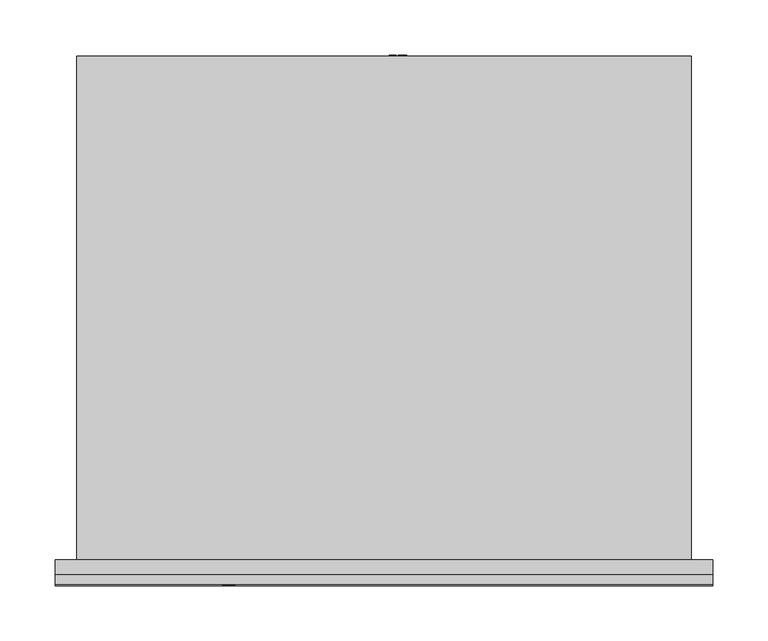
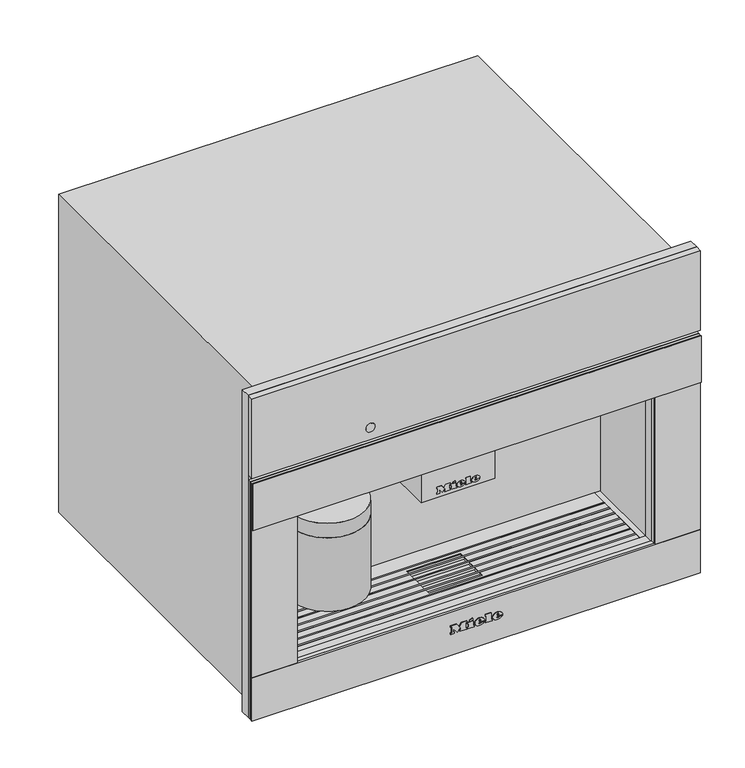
"""IFC4 building model written with IfcOpenShell, lengths in millimetres: proxy geometry, 11164550_F_CVA7840_EDST-CLST : 29784040_F_11164550_CVA7840_EDST-CLST."""

from ifc_helpers import new_model, si_unit, point, frame, frame_2d, origin, place, context, project, spatial, polyline, circle_curve, ellipse_curve, trimmed, segment, composite_curve, outline, extrude, faceted_brep, source, transform, mapped, element, save
from ifc_brep_helpers import plane_surface, cylinder_surface, revolved_surface, extruded_surface, advanced_brep


def specialty_equipment_fd1400ea(model_context):
    return source(origin(), model_context, "Body", "SolidModel", [
        extrude(outline(composite_curve([segment(trimmed(circle_curve(frame_2d((-14.0, 36.5)), 5.0), [point((-9.0, 36.5))], [point((-19.0, 36.5))], False, "CARTESIAN"), True, "CONTINUOUS"), segment(trimmed(circle_curve(frame_2d((-14.0, 36.5)), 5.0), [point((-19.0, 36.5))], [point((-9.0, 36.5))], False, "CARTESIAN"), True, "CONTINUOUS")], self_intersect=False)), frame((0.0, 0.0, 193.0), z_axis=(0.0, 0.0, 1.0), x_axis=(1.0, 0.0, 0.0)), (0.0, 0.0, 1.0), 5.0),
        extrude(outline(composite_curve([segment(trimmed(circle_curve(frame_2d((14.0, 36.5)), 5.0), [point((19.0, 36.5))], [point((9.0, 36.5))], False, "CARTESIAN"), True, "CONTINUOUS"), segment(trimmed(circle_curve(frame_2d((14.0, 36.5)), 5.0), [point((9.0, 36.5))], [point((19.0, 36.5))], False, "CARTESIAN"), True, "CONTINUOUS")], self_intersect=False)), frame((0.0, 0.0, 193.0), z_axis=(0.0, 0.0, 1.0), x_axis=(1.0, 0.0, 0.0)), (0.0, 0.0, 1.0), 5.0),
        extrude(outline(composite_curve([segment(trimmed(circle_curve(frame_2d((-156.5, 49.5)), 50.0), [point((-106.5, 49.5))], [point((-206.5, 49.5))], False, "CARTESIAN"), True, "CONTINUOUS"), segment(trimmed(circle_curve(frame_2d((-156.5, 49.5)), 50.0), [point((-206.5, 49.5))], [point((-106.5, 49.5))], False, "CARTESIAN"), True, "CONTINUOUS")], self_intersect=False)), frame((0.0, 0.0, 100.0), z_axis=(0.0, 0.0, 1.0), x_axis=(1.0, 0.0, 0.0)), (0.0, 0.0, 1.0), 103.0),
        extrude(outline(polyline([(-49.0, 95.0), (49.0, 95.0), (49.0, 20.0), (-49.0, 20.0), (-49.0, 95.0)])), frame((0.0, 0.0, 198.0), z_axis=(0.0, 0.0, 1.0), x_axis=(1.0, 0.0, 0.0)), (0.0, 0.0, 1.0), 75.0),
        extrude(outline(polyline([(455.5, 297.5), (455.5, -297.5), (4.0, -297.5), (4.0, 297.5), (455.5, 297.5)]), holes=[polyline([(273.0, 237.5), (63.0, 237.5), (63.0, -237.5), (273.0, -237.5), (273.0, 237.5)])]), frame((0.0, -13.0, 0.0), z_axis=(0.0, 1.0, 0.0), x_axis=(0.0, 0.0, 1.0)), (0.0, 0.0, 1.0), 13.0),
        extrude(outline(polyline([(97.0, 20.4012141), (107.045631, 20.4012141), (107.045631, 13.1809168), (105.7899271, 13.1809168), (105.7899271, 19.1455102), (102.8076304, 19.1455102), (102.8076304, 13.4948427), (101.5519266, 13.4948427), (101.5519266, 19.1455102), (98.2557039, 19.1455102), (98.2557039, 13.0239538), (97.0, 13.0239538), (97.0, 20.4012141)])), frame((0.0, 456.0, 0.0), z_axis=(0.0, 1.0, 0.0), x_axis=(0.0, 0.0, 1.0)), (0.0, 0.0, 1.0), 1.0),
        extrude(outline(polyline([(97.0, 11.140398), (107.045631, 11.140398), (107.045631, 9.8846941), (98.2557039, 9.8846941), (98.2557039, 4.8618786), (97.0, 4.8618786), (97.0, 11.140398)])), frame((0.0, 456.0, 0.0), z_axis=(0.0, 1.0, 0.0), x_axis=(0.0, 0.0, 1.0)), (0.0, 0.0, 1.0), 1.0),
        advanced_brep(
        [(55.0, 425.5, 102.0), (55.0, 410.5, 102.0), (20.5239538, 425.5, 102.0), (5.5239538, 410.5, 102.0), (20.5239538, 456.0, 102.0), (5.5239538, 456.0, 102.0)],
        [
            (0, 1, circle_curve(frame((55.0, 418.0, 102.0), z_axis=(1.0, 0.0, 0.0), x_axis=(0.0, -1.0, 0.0)), 7.5)),
            (1, 0, circle_curve(frame((55.0, 418.0, 102.0), z_axis=(1.0, 0.0, 0.0), x_axis=(0.0, -1.0, 0.0)), 7.5)),
            (0, 2),
            (2, 3, ellipse_curve(frame((13.0239538, 418.0, 102.0), z_axis=(0.7071067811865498, -0.7071067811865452, 0.0), x_axis=(0.7071067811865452, 0.7071067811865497, 0.0)), 10.6066017, 7.5)),
            (3, 1),
            (3, 2, ellipse_curve(frame((13.0239538, 418.0, 102.0), z_axis=(0.7071067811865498, -0.7071067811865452, 0.0), x_axis=(0.7071067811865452, 0.7071067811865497, 0.0)), 10.6066017, 7.5)),
            (4, 5, circle_curve(frame((13.0239538, 456.0, 102.0), z_axis=(0.0, 1.0, 0.0), x_axis=(-1.0, 0.0, 0.0)), 7.5)),
            (5, 4, circle_curve(frame((13.0239538, 456.0, 102.0), z_axis=(0.0, 1.0, 0.0), x_axis=(-1.0, 0.0, 0.0)), 7.5)),
            (2, 4),
            (5, 3),
        ],
        [
            plane_surface(frame((55.0, 418.0, 102.0), z_axis=(1.0, 0.0, 0.0), x_axis=(0.0, 0.0, 1.0))),
            cylinder_surface(frame((55.0, 418.0, 102.0), z_axis=(1.0, 0.0, 0.0), x_axis=(0.0, -1.0, 0.0)), 7.5),
            plane_surface(frame((13.0239538, 456.0, 102.0), z_axis=(0.0, 1.0, 0.0), x_axis=(0.0, 0.0, 1.0))),
            cylinder_surface(frame((13.0239538, 418.0, 102.0), z_axis=(0.0, -1.0, 0.0), x_axis=(-1.0, 0.0, 0.0)), 7.5),
        ],
        [
            (0, [[1, 2]]),
            (1, [[-1, 3, 4, 5]]),
            (1, [[-2, -5, 6, -3]]),
            (2, [[7, 8]]),
            (3, [[-4, 9, -8, 10]]),
            (3, [[-6, -10, -7, -9]]),
        ],
    ),
        advanced_brep(
        [(-110.0, 49.5, 252.0), (-203.0, 49.5, 252.0), (-206.5, 49.5, 223.5), (-106.5, 49.5, 223.5), (-110.0, 49.5, 273.0), (-203.0, 49.5, 273.0), (-156.5, 49.5, 273.0), (-106.5, 49.5, 203.0), (-206.5, 49.5, 203.0), (-156.5, 49.5, 203.0)],
        [
            (0, 1, circle_curve(frame((-156.5, 49.5, 252.0), z_axis=(0.0, 0.0, -1.0), x_axis=(-1.0, 0.0, 0.0)), 46.5)),
            (1, 2, circle_curve(frame((-206.7961166, 49.5, 238.0012775), z_axis=(0.0, 1.0, 0.0), x_axis=(-1.0, 0.0, 0.0)), 14.5043005)),
            (2, 3, circle_curve(frame((-156.5, 49.5, 223.5), z_axis=(0.0, 0.0, 1.0), x_axis=(-1.0, 0.0, 0.0)), 50.0)),
            (3, 0, circle_curve(frame((-106.2038834, 49.5, 238.0012775), z_axis=(0.0, 1.0, 0.0), x_axis=(1.0, 0.0, 0.0)), 14.5043005)),
            (4, 5, circle_curve(frame((-156.5, 49.5, 273.0), z_axis=(0.0, 0.0, -1.0), x_axis=(-1.0, 0.0, 0.0)), 46.5)),
            (5, 1),
            (0, 4),
            (6, 4),
            (4, 5, circle_curve(frame((-156.5, 49.5, 273.0), z_axis=(0.0, 0.0, 1.0), x_axis=(-1.0, 0.0, 0.0)), 46.5)),
            (5, 6),
            (7, 8, circle_curve(frame((-156.5, 49.5, 203.0), z_axis=(0.0, 0.0, -1.0), x_axis=(-1.0, 0.0, 0.0)), 50.0)),
            (8, 9),
            (9, 7),
            (8, 7, circle_curve(frame((-156.5, 49.5, 203.0), z_axis=(0.0, 0.0, -1.0), x_axis=(-1.0, 0.0, 0.0)), 50.0)),
            (2, 8),
            (7, 3),
            (2, 3, circle_curve(frame((-156.5, 49.5, 223.5), z_axis=(0.0, 0.0, -1.0), x_axis=(-1.0, 0.0, 0.0)), 50.0)),
            (1, 0, circle_curve(frame((-156.5, 49.5, 252.0), z_axis=(0.0, 0.0, -1.0), x_axis=(-1.0, 0.0, 0.0)), 46.5)),
        ],
        [
            revolved_surface(trimmed(ellipse_curve(frame((-206.7961166, 49.5, 238.0012775), z_axis=(0.0, -1.0, 0.0), x_axis=(-1.0, 0.0, 0.0)), 14.5043005, 14.5043005), [point((-206.5, 49.5, 223.5))], [point((-203.0, 49.5, 252.0))], True, "CARTESIAN"), (-156.5, 49.5, 388.7361736), (0.0, 0.0, 1.0)),
            cylinder_surface(frame((-156.5, 49.5, 388.7361736), z_axis=(0.0, 0.0, 1.0), x_axis=(-1.0, 0.0, 0.0)), 46.5),
            plane_surface(frame((-156.5, 49.5, 273.0), z_axis=(0.0, 0.0, 1.0), x_axis=(-1.0, 0.0, 0.0))),
            plane_surface(frame((-156.5, 49.5, 203.0), z_axis=(0.0, 0.0, -1.0), x_axis=(-1.0, 0.0, 0.0))),
            cylinder_surface(frame((-156.5, 49.5, 388.7361736), z_axis=(0.0, 0.0, 1.0), x_axis=(-1.0, 0.0, 0.0)), 50.0),
        ],
        [
            (0, [[1, 2, 3, 4]]),
            (1, [[5, 6, -1, 7]]),
            (2, [[8, 9, 10]]),
            (3, [[11, 12, 13]]),
            (3, [[14, -13, -12]]),
            (4, [[-3, 15, -11, 16]]),
            (4, [[17, -16, -14, -15]]),
            (0, [[18, -4, -17, -2]]),
            (1, [[-9, -7, -18, -6]]),
            (2, [[-10, -5, -8]]),
        ],
    ),
        faceted_brep([(229.5, 82.0925571, 60.0), (229.5, 80.0925571, 60.0), (-229.5, 80.0925571, 60.0), (-229.5, 82.0925571, 60.0), (229.5, 70.0550731, 60.0), (229.5, 68.0550731, 60.0), (-229.5, 68.0550731, 60.0), (-229.5, 70.0550731, 60.0), (229.5, 58.0175891, 60.0), (229.5, 56.0175891, 60.0), (-229.5, 56.0175891, 60.0), (-229.5, 58.0175891, 60.0), (229.5, 45.9801052, 60.0), (229.5, 43.9801052, 60.0), (-229.5, 43.9801052, 60.0), (-229.5, 45.9801052, 60.0), (229.5, 33.9426212, 60.0), (229.5, 31.9426212, 60.0), (-229.5, 31.9426212, 60.0), (-229.5, 33.9426212, 60.0), (229.5, 21.9776522, 60.0), (229.5, 19.9776522, 60.0), (-229.5, 19.9776522, 60.0), (-229.5, 21.9776522, 60.0), (229.5, 10.0, 60.0), (229.5, 8.0, 60.0), (-229.5, 8.0, 60.0), (-229.5, 10.0, 60.0), (-229.5, 45.9801052, 62.0), (-36.0, 45.9801052, 62.0), (-36.0, 45.9801052, 63.0), (-229.5, 45.9801052, 63.0), (-229.5, 45.9801052, 63.5), (229.5, 45.9801052, 63.5), (229.5, 45.9801052, 63.0), (36.0, 45.9801052, 63.0), (36.0, 45.9801052, 62.0), (229.5, 45.9801052, 62.0), (229.5, 19.9776522, 62.0), (229.5, 10.0, 62.0), (-229.5, 10.0, 62.0), (-229.5, 19.9776522, 62.0), (229.5, 43.9801052, 62.0), (229.5, 33.9426212, 62.0), (36.0, 33.9426212, 62.0), (36.0, 43.9801052, 62.0), (229.5, 56.0175891, 62.0), (36.0, 56.0175891, 62.0), (229.5, 68.0550731, 62.0), (229.5, 58.0175891, 62.0), (36.0, 58.0175891, 62.0), (36.0, 68.0550731, 62.0), (-229.5, 33.9426212, 62.0), (-229.5, 43.9801052, 62.0), (-36.0, 43.9801052, 62.0), (-36.0, 33.9426212, 62.0), (-229.5, 56.0175891, 62.0), (-36.0, 56.0175891, 62.0), (-229.5, 58.0175891, 62.0), (-229.5, 68.0550731, 62.0), (-36.0, 68.0550731, 62.0), (-36.0, 58.0175891, 62.0), (-229.5, 104.5, 62.0), (229.5, 104.5, 62.0), (229.5, 82.0925571, 62.0), (-229.5, 82.0925571, 62.0), (36.0, 76.0, 62.0), (-36.0, 76.0, 62.0), (-36.0, 70.0550731, 62.0), (-229.5, 70.0550731, 62.0), (-229.5, 80.0925571, 62.0), (229.5, 80.0925571, 62.0), (229.5, 70.0550731, 62.0), (36.0, 70.0550731, 62.0), (229.5, 0.0, 62.0), (-229.5, 0.0, 62.0), (-229.5, 8.0, 62.0), (229.5, 8.0, 62.0), (-36.0, 25.0, 62.0), (36.0, 25.0, 62.0), (36.0, 31.9426212, 62.0), (229.5, 31.9426212, 62.0), (229.5, 21.9776522, 62.0), (-229.5, 21.9776522, 62.0), (-229.5, 31.9426212, 62.0), (-36.0, 31.9426212, 62.0), (229.5, 104.5, 63.0), (-229.5, 104.5, 63.0), (-229.5, 82.0925571, 63.0), (229.5, 82.0925571, 63.0), (-229.5, 0.0, 63.0), (229.5, 0.0, 63.0), (229.5, 8.0, 63.0), (-229.5, 8.0, 63.0), (-36.0, 76.0, 63.0), (36.0, 76.0, 63.0), (36.0, 70.0550731, 63.0), (229.5, 70.0550731, 63.0), (229.5, 80.0925571, 63.0), (-229.5, 80.0925571, 63.0), (-229.5, 70.0550731, 63.0), (-36.0, 70.0550731, 63.0), (36.0, 25.0, 63.0), (-36.0, 25.0, 63.0), (-36.0, 31.9426212, 63.0), (-229.5, 31.9426212, 63.0), (-229.5, 21.9776522, 63.0), (229.5, 21.9776522, 63.0), (229.5, 31.9426212, 63.0), (36.0, 31.9426212, 63.0), (-229.5, 19.9776522, 63.0), (-229.5, 10.0, 63.0), (229.5, 10.0, 63.0), (229.5, 19.9776522, 63.0), (-229.5, 43.9801052, 63.0), (-229.5, 33.9426212, 63.0), (-36.0, 33.9426212, 63.0), (-36.0, 43.9801052, 63.0), (-229.5, 56.0175891, 63.0), (-36.0, 56.0175891, 63.0), (-229.5, 68.0550731, 63.0), (-229.5, 58.0175891, 63.0), (-36.0, 58.0175891, 63.0), (-36.0, 68.0550731, 63.0), (229.5, 33.9426212, 63.0), (229.5, 43.9801052, 63.0), (36.0, 43.9801052, 63.0), (36.0, 33.9426212, 63.0), (229.5, 56.0175891, 63.0), (36.0, 56.0175891, 63.0), (229.5, 58.0175891, 63.0), (229.5, 68.0550731, 63.0), (36.0, 68.0550731, 63.0), (36.0, 58.0175891, 63.0), (-229.5, 8.0, 63.5), (-229.5, 10.0, 63.5), (-229.5, 19.9776522, 63.5), (-229.5, 21.9776522, 63.5), (-229.5, 31.9426212, 63.5), (-229.5, 33.9426212, 63.5), (-229.5, 43.9801052, 63.5), (-229.5, 56.0175891, 63.5), (-229.5, 58.0175891, 63.5), (-229.5, 68.0550731, 63.5), (-229.5, 70.0550731, 63.5), (-229.5, 80.0925571, 63.5), (-229.5, 82.0925571, 63.5), (229.5, 82.0925571, 63.5), (229.5, 80.0925571, 63.5), (229.5, 70.0550731, 63.5), (229.5, 68.0550731, 63.5), (229.5, 58.0175891, 63.5), (229.5, 56.0175891, 63.5), (229.5, 43.9801052, 63.5), (229.5, 33.9426212, 63.5), (229.5, 31.9426212, 63.5), (229.5, 21.9776522, 63.5), (229.5, 19.9776522, 63.5), (229.5, 10.0, 63.5), (229.5, 8.0, 63.5)], [[[0, 1, 2, 3]], [[4, 5, 6, 7]], [[8, 9, 10, 11]], [[12, 13, 14, 15]], [[16, 17, 18, 19]], [[20, 21, 22, 23]], [[24, 25, 26, 27]], [[12, 15, 28, 29, 30, 31, 32, 33, 34, 35, 36, 37]], [[38, 39, 40, 41]], [[42, 43, 44, 45]], [[46, 37, 36, 47]], [[48, 49, 50, 51]], [[52, 53, 54, 55]], [[28, 56, 57, 29]], [[58, 59, 60, 61]], [[62, 63, 64, 65]], [[66, 67, 68, 69, 70, 71, 72, 73]], [[74, 75, 76, 77]], [[78, 79, 80, 81, 82, 83, 84, 85]], [[86, 87, 88, 89]], [[90, 91, 92, 93]], [[94, 95, 96, 97, 98, 99, 100, 101]], [[102, 103, 104, 105, 106, 107, 108, 109]], [[110, 111, 112, 113]], [[114, 115, 116, 117]], [[118, 31, 30, 119]], [[120, 121, 122, 123]], [[124, 125, 126, 127]], [[34, 128, 129, 35]], [[130, 131, 132, 133]], [[63, 62, 87, 86]], [[87, 62, 65, 3, 2, 70, 69, 7, 6, 59, 58, 11, 10, 56, 28, 15, 14, 53, 52, 19, 18, 84, 83, 23, 22, 41, 40, 27, 26, 76, 75, 90, 93, 134, 135, 111, 110, 136, 137, 106, 105, 138, 139, 115, 114, 140, 32, 31, 118, 141, 142, 121, 120, 143, 144, 100, 99, 145, 146, 88]], [[75, 74, 91, 90]], [[63, 86, 89, 147, 148, 98, 97, 149, 150, 131, 130, 151, 152, 128, 34, 33, 153, 125, 124, 154, 155, 108, 107, 156, 157, 113, 112, 158, 159, 92, 91, 74, 77, 25, 24, 39, 38, 21, 20, 82, 81, 17, 16, 43, 42, 13, 12, 37, 46, 9, 8, 49, 48, 5, 4, 72, 71, 1, 0, 64]], [[66, 95, 94, 67]], [[55, 54, 117, 116]], [[29, 57, 119, 30]], [[61, 60, 123, 122]], [[67, 94, 101, 68]], [[103, 78, 85, 104]], [[78, 103, 102, 79]], [[45, 44, 127, 126]], [[47, 36, 35, 129]], [[51, 50, 133, 132]], [[95, 66, 73, 96]], [[79, 102, 109, 80]], [[158, 135, 134, 159]], [[156, 137, 136, 157]], [[154, 139, 138, 155]], [[33, 32, 140, 153]], [[151, 142, 141, 152]], [[149, 144, 143, 150]], [[147, 146, 145, 148]], [[24, 27, 40, 39]], [[135, 158, 112, 111]], [[26, 25, 77, 76]], [[159, 134, 93, 92]], [[20, 23, 83, 82]], [[137, 156, 107, 106]], [[22, 21, 38, 41]], [[157, 136, 110, 113]], [[16, 19, 52, 55, 116, 115, 139, 154, 124, 127, 44, 43]], [[18, 17, 81, 80, 109, 108, 155, 138, 105, 104, 85, 84]], [[14, 13, 42, 45, 126, 125, 153, 140, 114, 117, 54, 53]], [[8, 11, 58, 61, 122, 121, 142, 151, 130, 133, 50, 49]], [[10, 9, 46, 47, 129, 128, 152, 141, 118, 119, 57, 56]], [[4, 7, 69, 68, 101, 100, 144, 149, 97, 96, 73, 72]], [[6, 5, 48, 51, 132, 131, 150, 143, 120, 123, 60, 59]], [[0, 3, 65, 64]], [[146, 147, 89, 88]], [[2, 1, 71, 70]], [[148, 145, 99, 98]]]),
        faceted_brep([(-278.0, 456.0, 0.0), (-278.0, 0.0, 0.0), (-278.0, 0.0, 446.0), (-278.0, 456.0, 446.0), (278.0, 456.0, 0.0), (278.0, 456.0, 446.0), (278.0, 0.0, 446.0), (278.0, 0.0, 0.0), (55.0, 456.0, 133.0), (-22.0, 456.0, 133.0), (-22.0, 456.0, 89.0), (35.0, 456.0, 66.0), (55.0, 456.0, 66.0), (-36.0, 76.0, 58.0), (36.0, 76.0, 58.0), (36.0, 76.0, 62.0), (-36.0, 76.0, 62.0), (36.0, 25.0, 58.0), (-36.0, 25.0, 58.0), (-36.0, 25.0, 62.0), (36.0, 25.0, 62.0), (237.5, 0.0, 273.0), (237.5, 0.0, 63.0), (229.5, 0.0, 63.0), (229.5, 0.0, 62.0), (-229.5, 0.0, 62.0), (-229.5, 0.0, 63.0), (-237.5, 0.0, 63.0), (-237.5, 0.0, 273.0), (237.5, 104.5, 273.0), (-237.5, 104.5, 273.0), (-237.5, 104.5, 63.0), (-229.5, 104.5, 63.0), (-229.5, 104.5, 62.0), (229.5, 104.5, 62.0), (229.5, 104.5, 63.0), (237.5, 104.5, 63.0), (-22.0, 400.0, 133.0), (55.0, 400.0, 133.0), (55.0, 400.0, 66.0), (35.0, 400.0, 66.0), (-22.0, 400.0, 89.0)], [[[0, 1, 2, 3]], [[4, 5, 6, 7]], [[0, 3, 5, 4], [8, 9, 10, 11, 12]], [[13, 14, 15, 16]], [[17, 18, 19, 20]], [[3, 2, 6, 5]], [[2, 1, 7, 6], [21, 22, 23, 24, 25, 26, 27, 28]], [[1, 0, 4, 7]], [[29, 30, 31, 32, 33, 34, 35, 36]], [[29, 36, 22, 21]], [[22, 36, 35, 23]], [[31, 27, 26, 32]], [[31, 30, 28, 27]], [[30, 29, 21, 28]], [[34, 33, 25, 24], [16, 15, 20, 19]], [[25, 33, 32, 26]], [[34, 24, 23, 35]], [[14, 13, 18, 17]], [[18, 13, 16, 19]], [[14, 17, 20, 15]], [[37, 38, 39, 40, 41]], [[38, 37, 9, 8]], [[39, 38, 8, 12]], [[40, 39, 12, 11]], [[41, 40, 11, 10]], [[37, 41, 10, 9]]]),
        advanced_brep(
        [(27.088, -23.0, 36.7018), (27.088, -23.0, 37.8532), (34.7146, -23.0, 37.8532), (21.445, -23.0, 37.8532), (24.58, -23.0, 34.0), (34.5208, -23.0, 36.7018), (31.078, -23.0, 36.7018), (28.3648, -23.0, 35.425), (27.088, -23.0, 39.3124), (27.088, -23.0, 40.555), (29.0374, -23.0, 40.555), (29.0374, -23.0, 39.3124), (27.088, -22.0, 36.7018), (28.3648, -22.0, 35.425), (31.078, -22.0, 36.7018), (34.5208, -22.0, 36.7018), (24.58, -22.0, 34.0), (21.445, -22.0, 37.8532), (34.7146, -22.0, 37.8532), (27.088, -22.0, 37.8532), (27.088, -22.0, 39.3124), (29.0374, -22.0, 39.3124), (29.0374, -22.0, 40.555), (27.088, -22.0, 40.555)],
        [
            (0, 1),
            (1, 2),
            (2, 3, ellipse_curve(frame((28.0798, -23.0, 37.8532), z_axis=(0.0, -1.0, 0.0), x_axis=(-1.0, 0.0, 0.0)), 6.6348, 5.4834)),
            (3, 4, circle_curve(frame((25.8568622, -23.0, 38.2408), z_axis=(0.0, -1.0, 0.0), x_axis=(0.0, 0.0, -1.0)), 4.4288556)),
            (4, 5, circle_curve(frame((27.9469808, -23.0, 41.2504), z_axis=(0.0, -1.0, 0.0), x_axis=(0.0, 0.0, -1.0)), 7.9940516)),
            (5, 6),
            (6, 7, circle_curve(frame((28.9220588, -23.0, 37.762), z_axis=(0.0, 1.0, 0.0), x_axis=(0.0, 0.0, -1.0)), 2.4025208)),
            (7, 0, circle_curve(frame((28.3648, -23.0, 36.7018), z_axis=(0.0, 1.0, 0.0), x_axis=(0.0, 0.0, -1.0)), 1.2768)),
            (8, 9),
            (9, 10, circle_curve(frame((28.0627, -23.0, 40.555), z_axis=(0.0, 1.0, 0.0), x_axis=(0.0, 0.0, -1.0)), 0.9747)),
            (10, 11),
            (11, 8),
            (12, 13, circle_curve(frame((28.3648, -22.0, 36.7018), z_axis=(0.0, -1.0, 0.0), x_axis=(0.0, 0.0, -1.0)), 1.2768)),
            (13, 14, circle_curve(frame((28.9220588, -22.0, 37.762), z_axis=(0.0, -1.0, 0.0), x_axis=(0.0, 0.0, -1.0)), 2.4025208)),
            (14, 15),
            (15, 16, circle_curve(frame((27.9469808, -22.0, 41.2504), z_axis=(0.0, 1.0, 0.0), x_axis=(0.0, 0.0, -1.0)), 7.9940516)),
            (16, 17, circle_curve(frame((25.8568622, -22.0, 38.2408), z_axis=(0.0, 1.0, 0.0), x_axis=(0.0, 0.0, -1.0)), 4.4288556)),
            (17, 18, ellipse_curve(frame((28.0798, -22.0, 37.8532), z_axis=(0.0, 1.0, 0.0), x_axis=(-1.0, 0.0, 0.0)), 6.6348, 5.4834)),
            (18, 19),
            (19, 12),
            (20, 21),
            (21, 22),
            (22, 23, circle_curve(frame((28.0627, -22.0, 40.555), z_axis=(0.0, -1.0, 0.0), x_axis=(0.0, 0.0, -1.0)), 0.9747)),
            (23, 20),
            (0, 12),
            (19, 1),
            (18, 2),
            (5, 15),
            (14, 6),
            (17, 3),
            (13, 7),
            (16, 4),
            (8, 20),
            (23, 9),
            (22, 10),
            (21, 11),
        ],
        [
            plane_surface(frame((27.088, -23.0, 37.8532), z_axis=(0.0, -1.0, 0.0), x_axis=(0.0, 0.0, 1.0))),
            plane_surface(frame((27.088, -22.0, 37.8532), z_axis=(0.0, 1.0, 0.0), x_axis=(0.0, 0.0, -1.0))),
            plane_surface(frame((27.088, -23.0, 36.7018), z_axis=(1.0, 0.0, 0.0), x_axis=(0.0, 1.0, 0.0))),
            plane_surface(frame((27.088, -23.0, 37.8532), z_axis=(0.0, 0.0, -1.0), x_axis=(0.0, 1.0, 0.0))),
            plane_surface(frame((34.5208, -23.0, 36.7018), z_axis=(0.0, 0.0, 1.0), x_axis=(0.0, 1.0, 0.0))),
            extruded_surface(trimmed(ellipse_curve(frame((28.0798, -21.0, 37.8532), z_axis=(0.0, -1.0, 0.0), x_axis=(-1.0, 0.0, 0.0)), 6.6348, 5.4834), [point((34.7146, -21.0, 37.8532))], [point((21.445, -21.0, 37.8532))], True, "CARTESIAN"), (0.0, -1.0, 0.0), 1.0),
            revolved_surface(polyline([(28.9220588, -22.0, 35.3594792), (28.9220588, -23.0, 35.3594792)]), (28.9220588, -22.0, 37.762), (0.0, 1.0, 0.0)),
            revolved_surface(polyline([(28.3648, -22.0, 35.425), (28.3648, -23.0, 35.425)]), (28.3648, -22.0, 36.7018), (0.0, 1.0, 0.0)),
            cylinder_surface(frame((25.8568622, -22.0, 38.2408), z_axis=(0.0, -1.0, 0.0), x_axis=(0.0, 0.0, -1.0)), 4.4288556),
            cylinder_surface(frame((27.9469808, -22.0, 41.2504), z_axis=(0.0, -1.0, 0.0), x_axis=(0.0, 0.0, -1.0)), 7.9940516),
            plane_surface(frame((27.088, -23.0, 39.3124), z_axis=(1.0, 0.0, 0.0), x_axis=(0.0, 1.0, 0.0))),
            revolved_surface(polyline([(28.0627, -22.0, 39.5803), (28.0627, -23.0, 39.5803)]), (28.0627, -22.0, 40.555), (0.0, 1.0, 0.0)),
            plane_surface(frame((29.0374, -23.0, 40.555), z_axis=(-1.0, 0.0, 0.0), x_axis=(0.0, 1.0, 0.0))),
            plane_surface(frame((29.0374, -23.0, 39.3124), z_axis=(0.0, 0.0, 1.0), x_axis=(0.0, 1.0, 0.0))),
        ],
        [
            (0, [[1, 2, 3, 4, 5, 6, 7, 8], [9, 10, 11, 12]]),
            (1, [[13, 14, 15, 16, 17, 18, 19, 20], [21, 22, 23, 24]]),
            (2, [[-1, 25, -20, 26]]),
            (3, [[-2, -26, -19, 27]]),
            (4, [[-6, 28, -15, 29]]),
            (5, [[-3, -27, -18, 30]]),
            (6, [[-7, -29, -14, 31]]),
            (7, [[-8, -31, -13, -25]]),
            (8, [[-4, -30, -17, 32]]),
            (9, [[-5, -32, -16, -28]]),
            (10, [[-9, 33, -24, 34]]),
            (11, [[-10, -34, -23, 35]]),
            (12, [[-11, -35, -22, 36]]),
            (13, [[-12, -36, -21, -33]]),
        ],
    ),
        advanced_brep(
        [(3.2962, -23.0, 36.7018), (3.2962, -23.0, 37.8532), (10.9228, -23.0, 37.8532), (-2.3468, -23.0, 37.8532), (0.7882, -23.0, 34.0), (10.729, -23.0, 36.7018), (7.2862, -23.0, 36.7018), (4.573, -23.0, 35.425), (3.2962, -23.0, 39.3124), (3.2962, -23.0, 40.555), (5.2456, -23.0, 40.555), (5.2456, -23.0, 39.3124), (3.2962, -22.0, 36.7018), (4.573, -22.0, 35.425), (7.2862, -22.0, 36.7018), (10.729, -22.0, 36.7018), (0.7882, -22.0, 34.0), (-2.3468, -22.0, 37.8532), (10.9228, -22.0, 37.8532), (3.2962, -22.0, 37.8532), (3.2962, -22.0, 39.3124), (5.2456, -22.0, 39.3124), (5.2456, -22.0, 40.555), (3.2962, -22.0, 40.555)],
        [
            (0, 1),
            (1, 2),
            (2, 3, ellipse_curve(frame((4.288, -23.0, 37.8532), z_axis=(0.0, -1.0, 0.0), x_axis=(-1.0, 0.0, 0.0)), 6.6348, 5.4834)),
            (3, 4, circle_curve(frame((2.0650622, -23.0, 38.2408), z_axis=(0.0, -1.0, 0.0), x_axis=(0.0, 0.0, -1.0)), 4.4288556)),
            (4, 5, circle_curve(frame((4.1551808, -23.0, 41.2504), z_axis=(0.0, -1.0, 0.0), x_axis=(0.0, 0.0, -1.0)), 7.9940516)),
            (5, 6),
            (6, 7, circle_curve(frame((5.1302588, -23.0, 37.762), z_axis=(0.0, 1.0, 0.0), x_axis=(0.0, 0.0, -1.0)), 2.4025208)),
            (7, 0, circle_curve(frame((4.573, -23.0, 36.7018), z_axis=(0.0, 1.0, 0.0), x_axis=(0.0, 0.0, -1.0)), 1.2768)),
            (8, 9),
            (9, 10, circle_curve(frame((4.2709, -23.0, 40.555), z_axis=(0.0, 1.0, 0.0), x_axis=(0.0, 0.0, -1.0)), 0.9747)),
            (10, 11),
            (11, 8),
            (12, 13, circle_curve(frame((4.573, -22.0, 36.7018), z_axis=(0.0, -1.0, 0.0), x_axis=(0.0, 0.0, -1.0)), 1.2768)),
            (13, 14, circle_curve(frame((5.1302588, -22.0, 37.762), z_axis=(0.0, -1.0, 0.0), x_axis=(0.0, 0.0, -1.0)), 2.4025208)),
            (14, 15),
            (15, 16, circle_curve(frame((4.1551808, -22.0, 41.2504), z_axis=(0.0, 1.0, 0.0), x_axis=(0.0, 0.0, -1.0)), 7.9940516)),
            (16, 17, circle_curve(frame((2.0650622, -22.0, 38.2408), z_axis=(0.0, 1.0, 0.0), x_axis=(0.0, 0.0, -1.0)), 4.4288556)),
            (17, 18, ellipse_curve(frame((4.288, -22.0, 37.8532), z_axis=(0.0, 1.0, 0.0), x_axis=(-1.0, 0.0, 0.0)), 6.6348, 5.4834)),
            (18, 19),
            (19, 12),
            (20, 21),
            (21, 22),
            (22, 23, circle_curve(frame((4.2709, -22.0, 40.555), z_axis=(0.0, -1.0, 0.0), x_axis=(0.0, 0.0, -1.0)), 0.9747)),
            (23, 20),
            (0, 12),
            (19, 1),
            (18, 2),
            (5, 15),
            (14, 6),
            (17, 3),
            (13, 7),
            (16, 4),
            (8, 20),
            (23, 9),
            (22, 10),
            (21, 11),
        ],
        [
            plane_surface(frame((3.2962, -23.0, 37.8532), z_axis=(0.0, -1.0, 0.0), x_axis=(0.0, 0.0, 1.0))),
            plane_surface(frame((3.2962, -22.0, 37.8532), z_axis=(0.0, 1.0, 0.0), x_axis=(0.0, 0.0, -1.0))),
            plane_surface(frame((3.2962, -23.0, 36.7018), z_axis=(1.0, 0.0, 0.0), x_axis=(0.0, 1.0, 0.0))),
            plane_surface(frame((3.2962, -23.0, 37.8532), z_axis=(0.0, 0.0, -1.0), x_axis=(0.0, 1.0, 0.0))),
            plane_surface(frame((10.729, -23.0, 36.7018), z_axis=(0.0, 0.0, 1.0), x_axis=(0.0, 1.0, 0.0))),
            extruded_surface(trimmed(ellipse_curve(frame((4.288, -21.0, 37.8532), z_axis=(0.0, -1.0, 0.0), x_axis=(-1.0, 0.0, 0.0)), 6.6348, 5.4834), [point((10.9228, -21.0, 37.8532))], [point((-2.3468, -21.0, 37.8532))], True, "CARTESIAN"), (0.0, -1.0, 0.0), 1.0),
            revolved_surface(polyline([(5.1302588, -22.0, 35.3594792), (5.1302588, -23.0, 35.3594792)]), (5.1302588, -22.0, 37.762), (0.0, 1.0, 0.0)),
            revolved_surface(polyline([(4.573, -22.0, 35.425), (4.573, -23.0, 35.425)]), (4.573, -22.0, 36.7018), (0.0, 1.0, 0.0)),
            cylinder_surface(frame((2.0650622, -22.0, 38.2408), z_axis=(0.0, -1.0, 0.0), x_axis=(0.0, 0.0, -1.0)), 4.4288556),
            cylinder_surface(frame((4.1551808, -22.0, 41.2504), z_axis=(0.0, -1.0, 0.0), x_axis=(0.0, 0.0, -1.0)), 7.9940516),
            plane_surface(frame((3.2962, -23.0, 39.3124), z_axis=(1.0, 0.0, 0.0), x_axis=(0.0, 1.0, 0.0))),
            revolved_surface(polyline([(4.2709, -22.0, 39.5803), (4.2709, -23.0, 39.5803)]), (4.2709, -22.0, 40.555), (0.0, 1.0, 0.0)),
            plane_surface(frame((5.2456, -23.0, 40.555), z_axis=(-1.0, 0.0, 0.0), x_axis=(0.0, 1.0, 0.0))),
            plane_surface(frame((5.2456, -23.0, 39.3124), z_axis=(0.0, 0.0, 1.0), x_axis=(0.0, 1.0, 0.0))),
        ],
        [
            (0, [[1, 2, 3, 4, 5, 6, 7, 8], [9, 10, 11, 12]]),
            (1, [[13, 14, 15, 16, 17, 18, 19, 20], [21, 22, 23, 24]]),
            (2, [[-1, 25, -20, 26]]),
            (3, [[-2, -26, -19, 27]]),
            (4, [[-6, 28, -15, 29]]),
            (5, [[-3, -27, -18, 30]]),
            (6, [[-7, -29, -14, 31]]),
            (7, [[-8, -31, -13, -25]]),
            (8, [[-4, -30, -17, 32]]),
            (9, [[-5, -32, -16, -28]]),
            (10, [[-9, 33, -24, 34]]),
            (11, [[-10, -34, -23, 35]]),
            (12, [[-11, -35, -22, 36]]),
            (13, [[-12, -36, -21, -33]]),
        ],
    ),
        extrude(outline(polyline([(44.7274, -9.164), (42.8806, -8.2976), (44.6818, -4.433), (46.5286, -5.288), (44.7274, -9.164)])), frame((0.0, -23.0, 0.0), z_axis=(0.0, 1.0, 0.0), x_axis=(0.0, 0.0, 1.0)), (0.0, 0.0, 1.0), 1.0),
        extrude(outline(polyline([(42.6298, -11.9798), (40.5892, -11.9798), (40.5892, -10.6232), (35.9152, -10.6232), (35.9152, -11.9798), (34.0, -11.9798), (34.0, -2.9852), (35.9152, -2.9852), (35.9152, -4.3076), (42.6298, -4.3076), (42.6298, -11.9798)])), frame((0.0, -23.0, 0.0), z_axis=(0.0, 1.0, 0.0), x_axis=(0.0, 0.0, 1.0)), (0.0, 0.0, 1.0), 1.0),
        extrude(outline(polyline([(43.5418, 11.5612), (43.5418, 12.9292), (35.9152, 12.9292), (35.9152, 11.5612), (34.0, 11.5612), (34.0, 20.8066), (35.9152, 20.8066), (35.9152, 19.4044), (45.4, 19.4044), (45.4, 11.5612), (43.5418, 11.5612)])), frame((0.0, -23.0, 0.0), z_axis=(0.0, 1.0, 0.0), x_axis=(0.0, 0.0, 1.0)), (0.0, 0.0, 1.0), 1.0),
        extrude(outline(polyline([(43.5418, -34.7), (43.5418, -33.3206), (35.9152, -33.3206), (35.9152, -34.7), (34.0, -34.7), (34.0, -29.684), (35.9152, -29.684), (35.9152, -31.052), (40.7429247, -31.052), (34.0, -25.9562), (40.9402223, -20.8376), (35.9152, -20.8376), (35.9152, -22.2398), (34.0, -22.2398), (34.0, -13.1426), (35.9152, -13.1426), (35.9152, -14.5904), (43.5418, -14.5904), (43.5418, -13.1426), (45.4, -13.1426), (45.4, -20.0852), (41.125, -23.414), (45.4, -26.7542), (45.4, -34.7), (43.5418, -34.7)])), frame((0.0, -23.0, 0.0), z_axis=(0.0, 1.0, 0.0), x_axis=(0.0, 0.0, 1.0)), (0.0, 0.0, 1.0), 1.0),
        advanced_brep(
        [(22.348, 19.0, 205.5278), (22.348, 19.0, 206.4772), (28.6366, 19.0, 206.4772), (17.695, 19.0, 206.4772), (20.28, 19.0, 203.3), (28.4768, 19.0, 205.5278), (25.638, 19.0, 205.5278), (23.4008, 19.0, 204.475), (22.348, 19.0, 207.6804), (22.348, 19.0, 208.705), (23.9554, 19.0, 208.705), (23.9554, 19.0, 207.6804), (22.348, 20.0, 205.5278), (23.4008, 20.0, 204.475), (25.638, 20.0, 205.5278), (28.4768, 20.0, 205.5278), (20.28, 20.0, 203.3), (17.695, 20.0, 206.4772), (28.6366, 20.0, 206.4772), (22.348, 20.0, 206.4772), (22.348, 20.0, 207.6804), (23.9554, 20.0, 207.6804), (23.9554, 20.0, 208.705), (22.348, 20.0, 208.705)],
        [
            (0, 1),
            (1, 2),
            (2, 3, ellipse_curve(frame((23.1658, 19.0, 206.4772), z_axis=(0.0, -1.0, 0.0), x_axis=(-1.0, 0.0, 0.0)), 5.4708, 4.5214)),
            (3, 4, circle_curve(frame((21.3328513, 19.0, 206.7968), z_axis=(0.0, -1.0, 0.0), x_axis=(0.0, 0.0, -1.0)), 3.6518634)),
            (4, 5, circle_curve(frame((23.0562825, 19.0, 209.2784), z_axis=(0.0, -1.0, 0.0), x_axis=(0.0, 0.0, -1.0)), 6.5915864)),
            (5, 6),
            (6, 7, circle_curve(frame((23.8602941, 19.0, 206.402), z_axis=(0.0, 1.0, 0.0), x_axis=(0.0, 0.0, -1.0)), 1.981026)),
            (7, 0, circle_curve(frame((23.4008, 19.0, 205.5278), z_axis=(0.0, 1.0, 0.0), x_axis=(0.0, 0.0, -1.0)), 1.0528)),
            (8, 9),
            (9, 10, circle_curve(frame((23.1517, 19.0, 208.705), z_axis=(0.0, 1.0, 0.0), x_axis=(0.0, 0.0, -1.0)), 0.8037)),
            (10, 11),
            (11, 8),
            (12, 13, circle_curve(frame((23.4008, 20.0, 205.5278), z_axis=(0.0, -1.0, 0.0), x_axis=(0.0, 0.0, -1.0)), 1.0528)),
            (13, 14, circle_curve(frame((23.8602941, 20.0, 206.402), z_axis=(0.0, -1.0, 0.0), x_axis=(0.0, 0.0, -1.0)), 1.981026)),
            (14, 15),
            (15, 16, circle_curve(frame((23.0562825, 20.0, 209.2784), z_axis=(0.0, 1.0, 0.0), x_axis=(0.0, 0.0, -1.0)), 6.5915864)),
            (16, 17, circle_curve(frame((21.3328513, 20.0, 206.7968), z_axis=(0.0, 1.0, 0.0), x_axis=(0.0, 0.0, -1.0)), 3.6518634)),
            (17, 18, ellipse_curve(frame((23.1658, 20.0, 206.4772), z_axis=(0.0, 1.0, 0.0), x_axis=(-1.0, 0.0, 0.0)), 5.4708, 4.5214)),
            (18, 19),
            (19, 12),
            (20, 21),
            (21, 22),
            (22, 23, circle_curve(frame((23.1517, 20.0, 208.705), z_axis=(0.0, -1.0, 0.0), x_axis=(0.0, 0.0, -1.0)), 0.8037)),
            (23, 20),
            (0, 12),
            (19, 1),
            (18, 2),
            (5, 15),
            (14, 6),
            (17, 3),
            (13, 7),
            (16, 4),
            (8, 20),
            (23, 9),
            (22, 10),
            (21, 11),
        ],
        [
            plane_surface(frame((22.348, 19.0, 206.4772), z_axis=(0.0, -1.0, 0.0), x_axis=(0.0, 0.0, 1.0))),
            plane_surface(frame((22.348, 20.0, 206.4772), z_axis=(0.0, 1.0, 0.0), x_axis=(0.0, 0.0, -1.0))),
            plane_surface(frame((22.348, 19.0, 205.5278), z_axis=(1.0, 0.0, 0.0), x_axis=(0.0, 1.0, 0.0))),
            plane_surface(frame((22.348, 19.0, 206.4772), z_axis=(0.0, 0.0, -1.0), x_axis=(0.0, 1.0, 0.0))),
            plane_surface(frame((28.4768, 19.0, 205.5278), z_axis=(0.0, 0.0, 1.0), x_axis=(0.0, 1.0, 0.0))),
            extruded_surface(trimmed(ellipse_curve(frame((23.1658, 21.0, 206.4772), z_axis=(0.0, -1.0, 0.0), x_axis=(-1.0, 0.0, 0.0)), 5.4708, 4.5214), [point((28.6366, 21.0, 206.4772))], [point((17.695, 21.0, 206.4772))], True, "CARTESIAN"), (0.0, -1.0, 0.0), 1.0),
            revolved_surface(polyline([(23.8602941, 20.0, 204.420974), (23.8602941, 19.0, 204.420974)]), (23.8602941, 20.0, 206.402), (0.0, 1.0, 0.0)),
            revolved_surface(polyline([(23.4008, 20.0, 204.47500000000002), (23.4008, 19.0, 204.47500000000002)]), (23.4008, 20.0, 205.5278), (0.0, 1.0, 0.0)),
            cylinder_surface(frame((21.3328513, 20.0, 206.7968), z_axis=(0.0, -1.0, 0.0), x_axis=(0.0, 0.0, -1.0)), 3.6518634),
            cylinder_surface(frame((23.0562825, 20.0, 209.2784), z_axis=(0.0, -1.0, 0.0), x_axis=(0.0, 0.0, -1.0)), 6.5915864),
            plane_surface(frame((22.348, 19.0, 207.6804), z_axis=(1.0, 0.0, 0.0), x_axis=(0.0, 1.0, 0.0))),
            revolved_surface(polyline([(23.1517, 20.0, 207.90130000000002), (23.1517, 19.0, 207.90130000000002)]), (23.1517, 20.0, 208.705), (0.0, 1.0, 0.0)),
            plane_surface(frame((23.9554, 19.0, 208.705), z_axis=(-1.0, 0.0, 0.0), x_axis=(0.0, 1.0, 0.0))),
            plane_surface(frame((23.9554, 19.0, 207.6804), z_axis=(0.0, 0.0, 1.0), x_axis=(0.0, 1.0, 0.0))),
        ],
        [
            (0, [[1, 2, 3, 4, 5, 6, 7, 8], [9, 10, 11, 12]]),
            (1, [[13, 14, 15, 16, 17, 18, 19, 20], [21, 22, 23, 24]]),
            (2, [[-1, 25, -20, 26]]),
            (3, [[-2, -26, -19, 27]]),
            (4, [[-6, 28, -15, 29]]),
            (5, [[-3, -27, -18, 30]]),
            (6, [[-7, -29, -14, 31]]),
            (7, [[-8, -31, -13, -25]]),
            (8, [[-4, -30, -17, 32]]),
            (9, [[-5, -32, -16, -28]]),
            (10, [[-9, 33, -24, 34]]),
            (11, [[-10, -34, -23, 35]]),
            (12, [[-11, -35, -22, 36]]),
            (13, [[-12, -36, -21, -33]]),
        ],
    ),
        advanced_brep(
        [(2.7302, 19.0, 205.5278), (2.7302, 19.0, 206.4772), (9.0188, 19.0, 206.4772), (-1.9228, 19.0, 206.4772), (0.6622, 19.0, 203.3), (8.859, 19.0, 205.5278), (6.0202, 19.0, 205.5278), (3.783, 19.0, 204.475), (2.7302, 19.0, 207.6804), (2.7302, 19.0, 208.705), (4.3376, 19.0, 208.705), (4.3376, 19.0, 207.6804), (2.7302, 20.0, 205.5278), (3.783, 20.0, 204.475), (6.0202, 20.0, 205.5278), (8.859, 20.0, 205.5278), (0.6622, 20.0, 203.3), (-1.9228, 20.0, 206.4772), (9.0188, 20.0, 206.4772), (2.7302, 20.0, 206.4772), (2.7302, 20.0, 207.6804), (4.3376, 20.0, 207.6804), (4.3376, 20.0, 208.705), (2.7302, 20.0, 208.705)],
        [
            (0, 1),
            (1, 2),
            (2, 3, ellipse_curve(frame((3.548, 19.0, 206.4772), z_axis=(0.0, -1.0, 0.0), x_axis=(-1.0, 0.0, 0.0)), 5.4708, 4.5214)),
            (3, 4, circle_curve(frame((1.7150513, 19.0, 206.7968), z_axis=(0.0, -1.0, 0.0), x_axis=(0.0, 0.0, -1.0)), 3.6518634)),
            (4, 5, circle_curve(frame((3.4384825, 19.0, 209.2784), z_axis=(0.0, -1.0, 0.0), x_axis=(0.0, 0.0, -1.0)), 6.5915864)),
            (5, 6),
            (6, 7, circle_curve(frame((4.2424941, 19.0, 206.402), z_axis=(0.0, 1.0, 0.0), x_axis=(0.0, 0.0, -1.0)), 1.981026)),
            (7, 0, circle_curve(frame((3.783, 19.0, 205.5278), z_axis=(0.0, 1.0, 0.0), x_axis=(0.0, 0.0, -1.0)), 1.0528)),
            (8, 9),
            (9, 10, circle_curve(frame((3.5339, 19.0, 208.705), z_axis=(0.0, 1.0, 0.0), x_axis=(0.0, 0.0, -1.0)), 0.8037)),
            (10, 11),
            (11, 8),
            (12, 13, circle_curve(frame((3.783, 20.0, 205.5278), z_axis=(0.0, -1.0, 0.0), x_axis=(0.0, 0.0, -1.0)), 1.0528)),
            (13, 14, circle_curve(frame((4.2424941, 20.0, 206.402), z_axis=(0.0, -1.0, 0.0), x_axis=(0.0, 0.0, -1.0)), 1.981026)),
            (14, 15),
            (15, 16, circle_curve(frame((3.4384825, 20.0, 209.2784), z_axis=(0.0, 1.0, 0.0), x_axis=(0.0, 0.0, -1.0)), 6.5915864)),
            (16, 17, circle_curve(frame((1.7150513, 20.0, 206.7968), z_axis=(0.0, 1.0, 0.0), x_axis=(0.0, 0.0, -1.0)), 3.6518634)),
            (17, 18, ellipse_curve(frame((3.548, 20.0, 206.4772), z_axis=(0.0, 1.0, 0.0), x_axis=(-1.0, 0.0, 0.0)), 5.4708, 4.5214)),
            (18, 19),
            (19, 12),
            (20, 21),
            (21, 22),
            (22, 23, circle_curve(frame((3.5339, 20.0, 208.705), z_axis=(0.0, -1.0, 0.0), x_axis=(0.0, 0.0, -1.0)), 0.8037)),
            (23, 20),
            (0, 12),
            (19, 1),
            (18, 2),
            (5, 15),
            (14, 6),
            (17, 3),
            (13, 7),
            (16, 4),
            (8, 20),
            (23, 9),
            (22, 10),
            (21, 11),
        ],
        [
            plane_surface(frame((2.7302, 19.0, 206.4772), z_axis=(0.0, -1.0, 0.0), x_axis=(0.0, 0.0, 1.0))),
            plane_surface(frame((2.7302, 20.0, 206.4772), z_axis=(0.0, 1.0, 0.0), x_axis=(0.0, 0.0, -1.0))),
            plane_surface(frame((2.7302, 19.0, 205.5278), z_axis=(1.0, 0.0, 0.0), x_axis=(0.0, 1.0, 0.0))),
            plane_surface(frame((2.7302, 19.0, 206.4772), z_axis=(0.0, 0.0, -1.0), x_axis=(0.0, 1.0, 0.0))),
            plane_surface(frame((8.859, 19.0, 205.5278), z_axis=(0.0, 0.0, 1.0), x_axis=(0.0, 1.0, 0.0))),
            extruded_surface(trimmed(ellipse_curve(frame((3.548, 21.0, 206.4772), z_axis=(0.0, -1.0, 0.0), x_axis=(-1.0, 0.0, 0.0)), 5.4708, 4.5214), [point((9.0188, 21.0, 206.4772))], [point((-1.9228, 21.0, 206.4772))], True, "CARTESIAN"), (0.0, -1.0, 0.0), 1.0),
            revolved_surface(polyline([(4.2424941, 20.0, 204.420974), (4.2424941, 19.0, 204.420974)]), (4.2424941, 20.0, 206.402), (0.0, 1.0, 0.0)),
            revolved_surface(polyline([(3.783, 20.0, 204.47500000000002), (3.783, 19.0, 204.47500000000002)]), (3.783, 20.0, 205.5278), (0.0, 1.0, 0.0)),
            cylinder_surface(frame((1.7150513, 20.0, 206.7968), z_axis=(0.0, -1.0, 0.0), x_axis=(0.0, 0.0, -1.0)), 3.6518634),
            cylinder_surface(frame((3.4384825, 20.0, 209.2784), z_axis=(0.0, -1.0, 0.0), x_axis=(0.0, 0.0, -1.0)), 6.5915864),
            plane_surface(frame((2.7302, 19.0, 207.6804), z_axis=(1.0, 0.0, 0.0), x_axis=(0.0, 1.0, 0.0))),
            revolved_surface(polyline([(3.5339, 20.0, 207.90130000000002), (3.5339, 19.0, 207.90130000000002)]), (3.5339, 20.0, 208.705), (0.0, 1.0, 0.0)),
            plane_surface(frame((4.3376, 19.0, 208.705), z_axis=(-1.0, 0.0, 0.0), x_axis=(0.0, 1.0, 0.0))),
            plane_surface(frame((4.3376, 19.0, 207.6804), z_axis=(0.0, 0.0, 1.0), x_axis=(0.0, 1.0, 0.0))),
        ],
        [
            (0, [[1, 2, 3, 4, 5, 6, 7, 8], [9, 10, 11, 12]]),
            (1, [[13, 14, 15, 16, 17, 18, 19, 20], [21, 22, 23, 24]]),
            (2, [[-1, 25, -20, 26]]),
            (3, [[-2, -26, -19, 27]]),
            (4, [[-6, 28, -15, 29]]),
            (5, [[-3, -27, -18, 30]]),
            (6, [[-7, -29, -14, 31]]),
            (7, [[-8, -31, -13, -25]]),
            (8, [[-4, -30, -17, 32]]),
            (9, [[-5, -32, -16, -28]]),
            (10, [[-9, 33, -24, 34]]),
            (11, [[-10, -34, -23, 35]]),
            (12, [[-11, -35, -22, 36]]),
            (13, [[-12, -36, -21, -33]]),
        ],
    ),
        extrude(outline(polyline([(212.1454, -7.544), (210.6226, -6.8296), (212.1078, -3.643), (213.6306, -4.348), (212.1454, -7.544)])), frame((0.0, 19.0, 0.0), z_axis=(0.0, 1.0, 0.0), x_axis=(0.0, 0.0, 1.0)), (0.0, 0.0, 1.0), 1.0),
        extrude(outline(polyline([(210.4158, -9.8658), (208.7332, -9.8658), (208.7332, -8.7472), (204.8792, -8.7472), (204.8792, -9.8658), (203.3, -9.8658), (203.3, -2.4492), (204.8792, -2.4492), (204.8792, -3.5396), (210.4158, -3.5396), (210.4158, -9.8658)])), frame((0.0, 19.0, 0.0), z_axis=(0.0, 1.0, 0.0), x_axis=(0.0, 0.0, 1.0)), (0.0, 0.0, 1.0), 1.0),
        extrude(outline(polyline([(211.1678, 9.5452), (211.1678, 10.6732), (204.8792, 10.6732), (204.8792, 9.5452), (203.3, 9.5452), (203.3, 17.1686), (204.8792, 17.1686), (204.8792, 16.0124), (212.7, 16.0124), (212.7, 9.5452), (211.1678, 9.5452)])), frame((0.0, 19.0, 0.0), z_axis=(0.0, 1.0, 0.0), x_axis=(0.0, 0.0, 1.0)), (0.0, 0.0, 1.0), 1.0),
        extrude(outline(polyline([(211.1678, -28.6), (211.1678, -27.4626), (204.8792, -27.4626), (204.8792, -28.6), (203.3, -28.6), (203.3, -24.464), (204.8792, -24.464), (204.8792, -25.592), (208.8689247, -25.592), (203.3, -21.3902), (208.9902223, -17.1696), (204.8792, -17.1696), (204.8792, -18.3258), (203.3, -18.3258), (203.3, -10.8246), (204.8792, -10.8246), (204.8792, -12.0184), (211.1678, -12.0184), (211.1678, -10.8246), (212.7, -10.8246), (212.7, -16.5492), (209.175, -19.294), (212.7, -22.0482), (212.7, -28.6), (211.1678, -28.6)])), frame((0.0, 19.0, 0.0), z_axis=(0.0, 1.0, 0.0), x_axis=(0.0, 0.0, 1.0)), (0.0, 0.0, 1.0), 1.0),
        extrude(outline(polyline([(-297.5, -22.0), (297.5, -22.0), (297.5, -23.3), (-297.5, -23.3), (-297.5, -22.0)])), frame((0.0, 0.0, 272.0), z_axis=(0.0, 0.0, 1.0), x_axis=(1.0, 0.0, 0.0)), (0.0, 0.0, 1.0), 65.0),
        extrude(outline(polyline([(337.0, 297.5), (337.0, -297.5), (4.0, -297.5), (4.0, 297.5), (337.0, 297.5)]), holes=[polyline([(272.0, 237.5), (64.0, 237.5), (64.0, -237.5), (272.0, -237.5), (272.0, 237.5)])]), frame((0.0, -18.0, 0.0), z_axis=(0.0, 1.0, 0.0), x_axis=(0.0, 0.0, 1.0)), (0.0, 0.0, 1.0), 5.0),
        extrude(outline(polyline([(-297.5, -18.0), (-237.5, -18.0), (-237.5, -22.0), (-297.5, -22.0), (-297.5, -18.0)])), frame((0.0, 0.0, 64.5), z_axis=(0.0, 0.0, 1.0), x_axis=(1.0, 0.0, 0.0)), (0.0, 0.0, 1.0), 207.0),
        extrude(outline(polyline([(237.5, -18.0), (297.5, -18.0), (297.5, -22.0), (237.5, -22.0), (237.5, -18.0)])), frame((0.0, 0.0, 64.5), z_axis=(0.0, 0.0, 1.0), x_axis=(1.0, 0.0, 0.0)), (0.0, 0.0, 1.0), 207.0),
        extrude(outline(polyline([(-297.5, -18.0), (297.5, -18.0), (297.5, -22.0), (-297.5, -22.0), (-297.5, -18.0)])), frame((0.0, 0.0, 272.0), z_axis=(0.0, 0.0, 1.0), x_axis=(1.0, 0.0, 0.0)), (0.0, 0.0, 1.0), 65.0),
        extrude(outline(polyline([(-297.5, -18.0), (297.5, -18.0), (297.5, -22.0), (-297.5, -22.0), (-297.5, -18.0)])), frame((0.0, 0.0, 4.0), z_axis=(0.0, 0.0, 1.0), x_axis=(1.0, 0.0, 0.0)), (0.0, 0.0, 1.0), 60.0),
        extrude(outline(polyline([(297.5, -22.0), (-297.5, -22.0), (-297.5, -13.0), (297.5, -13.0), (297.5, -22.0)])), frame((0.0, 0.0, 344.0), z_axis=(0.0, 0.0, 1.0), x_axis=(1.0, 0.0, 0.0)), (0.0, 0.0, 1.0), 111.5),
        extrude(outline(composite_curve([segment(trimmed(circle_curve(frame_2d((361.0, -140.5745637)), 6.0), [point((361.0, -146.5745637))], [point((361.0, -134.5745637))], False, "CARTESIAN"), True, "CONTINUOUS"), segment(trimmed(circle_curve(frame_2d((361.0, -140.5745637)), 6.0), [point((361.0, -134.5745637))], [point((361.0, -146.5745637))], False, "CARTESIAN"), True, "CONTINUOUS")], self_intersect=False)), frame((0.0, -22.5, 0.0), z_axis=(0.0, 1.0, 0.0), x_axis=(0.0, 0.0, 1.0)), (0.0, 0.0, 1.0), 1.0),
    ])


if __name__ == "__main__":
    model = new_model("IFC4")
    model_context = context("Model", 3, world=origin())
    ifc_project = project(units=[si_unit("LENGTHUNIT", "METRE", prefix="MILLI")], contexts=[model_context])
    site = spatial("IfcSite", under=ifc_project)
    building = spatial("IfcBuilding", under=site)
    placement = place(None, origin())
    specialty_equipment_shape = specialty_equipment_fd1400ea(model_context)
    element("IfcBuildingElementProxy", 1, Name="11164550_F_CVA7840_EDST-CLST : 29784040_F_11164550_CVA7840_EDST-CLST", ObjectType="11164550_F_CVA7840_EDST-CLST : 29784040_F_11164550_CVA7840_EDST-CLST", at=placement, inside=building, context=model_context, shape_type="MappedRepresentation", body=[
        mapped(specialty_equipment_shape, transform((0.0, 0.0, 0.0), x_axis=(1.0, 0.0, 0.0), y_axis=(0.0, 1.0, 0.0), z_axis=(0.0, 0.0, 1.0))),
    ])
    save(model, "model.ifc")
